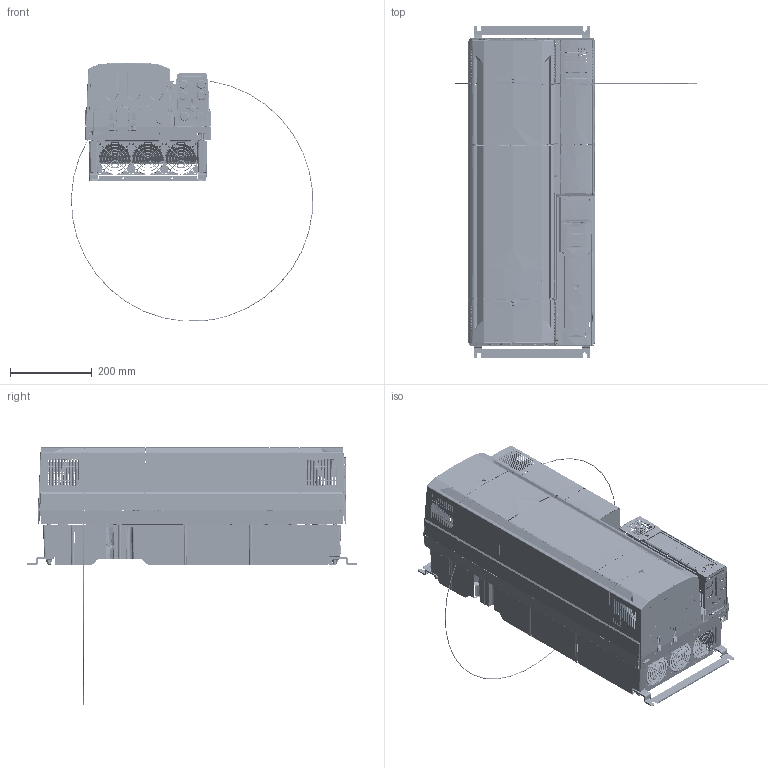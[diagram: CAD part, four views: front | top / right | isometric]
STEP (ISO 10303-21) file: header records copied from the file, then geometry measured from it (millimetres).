
FILE_DESCRIPTION((''),'2;1');
FILE_NAME('M200-SIMPLE_SW0002','2014-02-21T',('owenrh01'),(''),'PRO/ENGINEER BY PARAMETRIC TECHNOLOGY CORPORATION, 2011490','PRO/ENGINEER BY PARAMETRIC TECHNOLOGY CORPORATION, 2011490','');
FILE_SCHEMA(('CONFIG_CONTROL_DESIGN'));
Products named in the file (1): M200-SIMPLE_SW0002
Bounding box: 591.72 x 811.61 x 632.44 mm (x, y, z)
Surface area: 2439732.5 mm2 (no closed solid volume)
Topology: 0 solids, 0 shells, 3255 faces, 28550 edges, 28435 vertices
Faces by surface type: bspline 3129, torus 117, sphere 9
Entity records: 482159 total; most frequent: CARTESIAN_POINT 220038, DIRECTION 39628, TRIMMED_CURVE 36538, VECTOR 33700, LINE 33700, DEFINITIONAL_REPRESENTATION 28321, PCURVE 28321, COMPOSITE_CURVE_SEGMENT 28321
